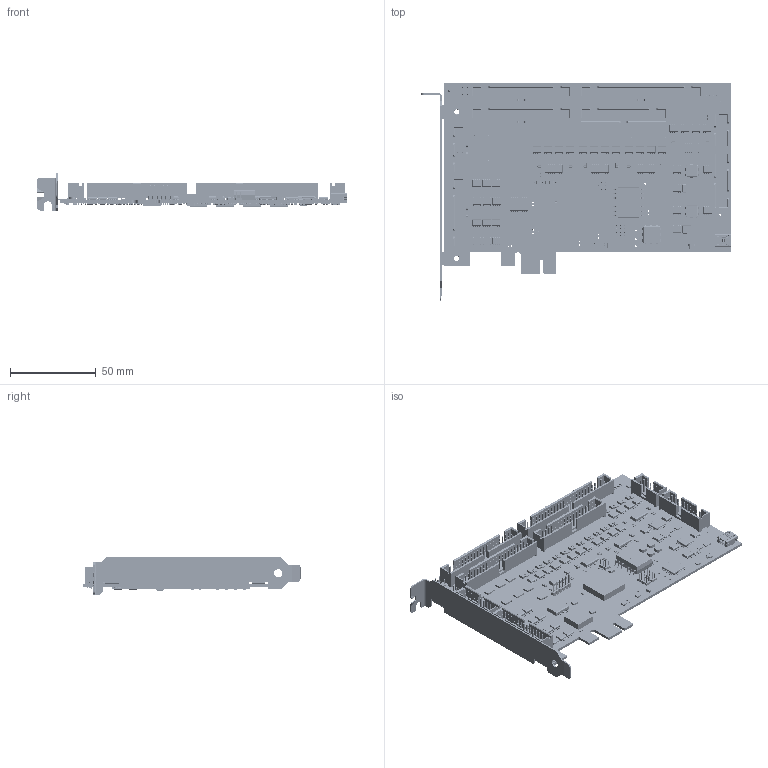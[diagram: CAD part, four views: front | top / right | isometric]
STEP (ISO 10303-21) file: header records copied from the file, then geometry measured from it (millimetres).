
FILE_DESCRIPTION(('Open CASCADE Model'),'2;1');
FILE_NAME('Open CASCADE Shape Model','2020-03-27T07:35:44',('Author'),( 'Open CASCADE'),'Open CASCADE STEP processor 6.8','Open CASCADE 6.8' ,'Unknown');
FILE_SCHEMA(('AUTOMOTIVE_DESIGN { 1 0 10303 214 1 1 1 1 }'));
Length unit declared in the file: millimetre
Products named in the file (671): PCB; Board; Open CASCADE STEP translator 6.8 3.1.1; Y2; 6260000704; R998; 6260001104; C999; 6260005984; R197; 6260328224; R196; R195; R190; R187; R180; R179; R178; R177; R164; R163; R162; R161; R160; R159; R158; R157; R144; 6259999424; R143; R142; R141; R140; R139; R136; R135; R129; R128; R126; R125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
Assembly tree (1173 placements, depth 4):
  PCB
    Board
      Open CASCADE STEP translator 6.8 3.1.1
    Y2
      6260000704
    R998
      6260001104
    C999
      6260005984
    R197
      6260328224
    R196
      6260328224
    R195
      6260328224
    R190
      6260328224
    R187
      6260328224
    R180
      6260328224
    R179
      6260328224
    R178
      6260328224
    R177
      6260328224
    R164
      6260328224
    R163
      6260328224
    R162
      6260328224
    R161
      6260328224
    R160
      6260328224
    R159
      6260328224
    R158
      6260328224
    R157
      6260328224
    R144
      6259999424
    R143
      6259999424
    R142
      6260328224
    R141
      6260328224
    R140
      6259999424
    R139
      6259999424
    R136
      6260328224
    R135
      6260328224
    R129
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Bounding box: 181.09 x 126.6 x 21.59 mm (x, y, z)
Volume: 49559.2 mm3; surface area: 83643.7 mm2
Topology: 3025 solids, 3025 shells, 41538 faces, 99291 edges, 62550 vertices
Faces by surface type: plane 29297, cylinder 10209, sphere 1821, torus 122, bspline 83, cone 6
Full cylindrical faces by diameter (mm): 0.7 x5, 0.91 x43, 0.94 x6, 1.05 x5, 1.11 x236, 3 x1, 3.175 x2
Entity records: 410555 total; most frequent: CARTESIAN_POINT 64030, DIRECTION 58681, ORIENTED_EDGE 57132, EDGE_CURVE 28566, LINE 23057, VECTOR 23057, VERTEX_POINT 18626, AXIS2_PLACEMENT_3D 17812
